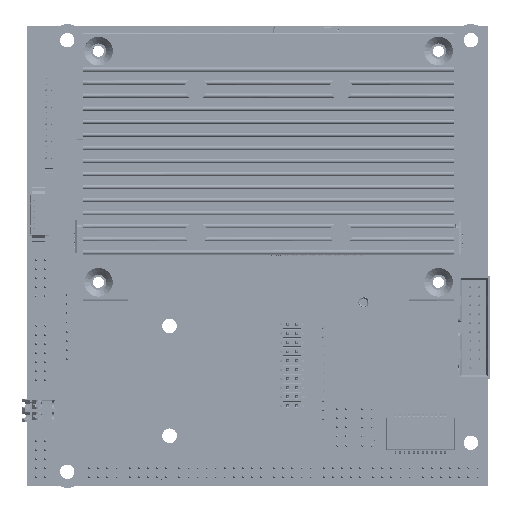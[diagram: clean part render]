
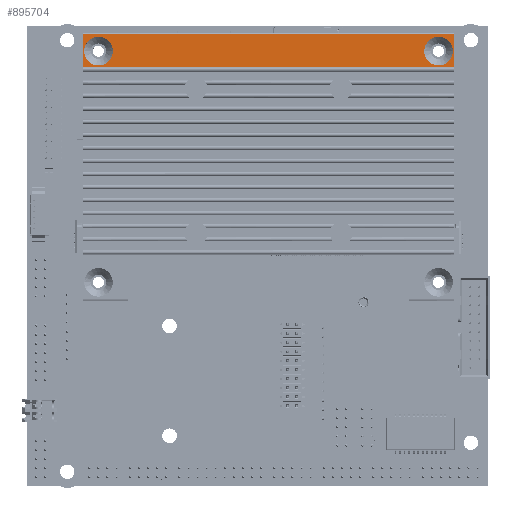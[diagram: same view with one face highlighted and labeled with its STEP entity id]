
A CAD part, top view. The second image highlights one B-rep face of the part: STEP entity #895704.
In plain terms, the highlighted planar face has unit normal (0, 0, 1) as drawn and (0, 1, 0) by its records, which use the part's own axes.
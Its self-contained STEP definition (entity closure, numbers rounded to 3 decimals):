
#892998=DIRECTION('',(-1.,0.,0.));
#892999=VECTOR('',#892998,7.24);
#893000=CARTESIAN_POINT('',(8.677,4.319,0.));
#893001=LINE('',#893000,#892999);
#893023=DIRECTION('',(0.,0.,1.));
#893024=VECTOR('',#893023,82.);
#893025=CARTESIAN_POINT('',(1.437,4.319,0.));
#893026=LINE('',#893025,#893024);
#893031=DIRECTION('',(-1.,0.,0.));
#893032=VECTOR('',#893031,7.24);
#893033=CARTESIAN_POINT('',(8.677,4.319,82.));
#893034=LINE('',#893033,#893032);
#893035=CARTESIAN_POINT('',(5.137,4.319,78.5));
#893036=DIRECTION('',(0.,1.,0.));
#893037=DIRECTION('',(0.,0.,1.));
#893038=AXIS2_PLACEMENT_3D('',#893035,#893036,#893037);
#893040=CARTESIAN_POINT('',(5.137,4.319,78.5));
#893041=DIRECTION('',(0.,1.,0.));
#893042=DIRECTION('',(0.,0.,-1.));
#893043=AXIS2_PLACEMENT_3D('',#893040,#893041,#893042);
#893045=CARTESIAN_POINT('',(5.137,4.319,3.5));
#893046=DIRECTION('',(0.,1.,0.));
#893047=DIRECTION('',(0.,0.,1.));
#893048=AXIS2_PLACEMENT_3D('',#893045,#893046,#893047);
#893050=CARTESIAN_POINT('',(5.137,4.319,3.5));
#893051=DIRECTION('',(0.,1.,0.));
#893052=DIRECTION('',(0.,0.,-1.));
#893053=AXIS2_PLACEMENT_3D('',#893050,#893051,#893052);
#893059=DIRECTION('',(0.,0.,-1.));
#893060=VECTOR('',#893059,82.);
#893061=CARTESIAN_POINT('',(8.677,4.319,82.));
#893062=LINE('',#893061,#893060);
#894637=CARTESIAN_POINT('',(1.437,4.319,82.));
#894638=VERTEX_POINT('',#894637);
#894639=CARTESIAN_POINT('',(8.677,4.319,82.));
#894640=VERTEX_POINT('',#894639);
#894903=CARTESIAN_POINT('',(8.677,4.319,0.));
#894904=VERTEX_POINT('',#894903);
#894905=CARTESIAN_POINT('',(1.437,4.319,0.));
#894906=VERTEX_POINT('',#894905);
#894909=CARTESIAN_POINT('',(5.137,4.319,81.65));
#894910=CARTESIAN_POINT('',(5.137,4.319,75.35));
#894911=VERTEX_POINT('',#894909);
#894912=VERTEX_POINT('',#894910);
#894913=CARTESIAN_POINT('',(5.137,4.319,6.65));
#894914=CARTESIAN_POINT('',(5.137,4.319,0.35));
#894915=VERTEX_POINT('',#894913);
#894916=VERTEX_POINT('',#894914);
#895680=CARTESIAN_POINT('',(48.887,4.319,0.));
#895681=DIRECTION('',(0.,1.,0.));
#895682=DIRECTION('',(-1.,0.,0.));
#895683=AXIS2_PLACEMENT_3D('',#895680,#895681,#895682);
#895684=PLANE('',#895683);
#895685=ORIENTED_EDGE('',*,*,#895632,.F.);
#895687=ORIENTED_EDGE('',*,*,#895686,.F.);
#895688=ORIENTED_EDGE('',*,*,#895270,.T.);
#895689=ORIENTED_EDGE('',*,*,#895672,.F.);
#895690=EDGE_LOOP('',(#895685,#895687,#895688,#895689));
#895691=FACE_OUTER_BOUND('',#895690,.F.);
#895693=ORIENTED_EDGE('',*,*,#895692,.T.);
#895695=ORIENTED_EDGE('',*,*,#895694,.T.);
#895696=EDGE_LOOP('',(#895693,#895695));
#895697=FACE_BOUND('',#895696,.F.);
#895699=ORIENTED_EDGE('',*,*,#895698,.T.);
#895701=ORIENTED_EDGE('',*,*,#895700,.T.);
#895702=EDGE_LOOP('',(#895699,#895701));
#895703=FACE_BOUND('',#895702,.F.);
#895704=ADVANCED_FACE('',(#895691,#895697,#895703),#895684,.T.);
#893039=CIRCLE('',#893038,3.15);
#893044=CIRCLE('',#893043,3.15);
#893049=CIRCLE('',#893048,3.15);
#893054=CIRCLE('',#893053,3.15);
#895270=EDGE_CURVE('',#894640,#894638,#893034,.T.);
#895632=EDGE_CURVE('',#894904,#894906,#893001,.T.);
#895672=EDGE_CURVE('',#894906,#894638,#893026,.T.);
#895686=EDGE_CURVE('',#894640,#894904,#893062,.T.);
#895692=EDGE_CURVE('',#894911,#894912,#893039,.T.);
#895694=EDGE_CURVE('',#894912,#894911,#893044,.T.);
#895698=EDGE_CURVE('',#894915,#894916,#893049,.T.);
#895700=EDGE_CURVE('',#894916,#894915,#893054,.T.);
